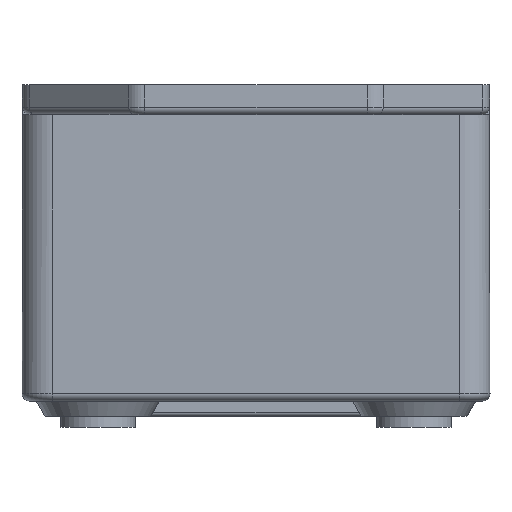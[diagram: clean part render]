
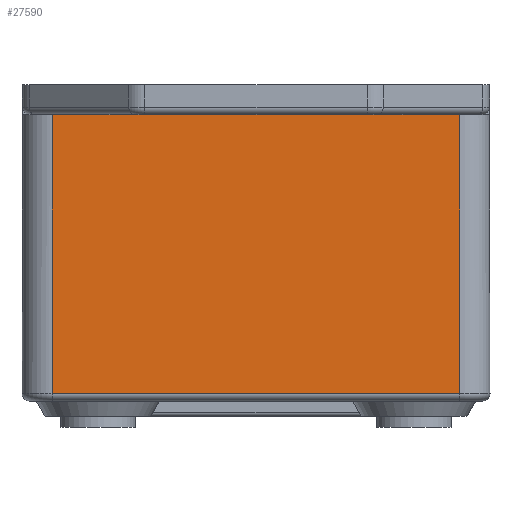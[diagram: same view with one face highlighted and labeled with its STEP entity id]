
A CAD part, front view. The second image highlights one B-rep face of the part: STEP entity #27590.
In plain terms, the highlighted planar face has unit normal (0, -1, 0.002).
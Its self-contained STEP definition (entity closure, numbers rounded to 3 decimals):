
#16660=CARTESIAN_POINT('',(27.,-48.,38.));
#16670=VERTEX_POINT('',#16660);
#16700=CARTESIAN_POINT('',(27.,-48.,38.));
#16710=DIRECTION('',(-1.,0.,0.));
#16720=VECTOR('',#16710,1.);
#16730=LINE('',#16700,#16720);
#16740=CARTESIAN_POINT('',(-27.,-48.,38.));
#16750=VERTEX_POINT('',#16740);
#16760=EDGE_CURVE('',#16670,#16750,#16730,.T.);
#26600=CARTESIAN_POINT('',(-27.065,-48.064,
1.001));
#26610=VERTEX_POINT('',#26600);
#27000=CARTESIAN_POINT('',(-27.,-48.,38.));
#27010=DIRECTION('',(-0.002,-0.002,
-1.));
#27020=VECTOR('',#27010,1.);
#27030=LINE('',#27000,#27020);
#27040=EDGE_CURVE('',#16750,#26610,#27030,.T.);
#27360=CARTESIAN_POINT('',(28.418,-47.998,
38.925));
#27370=DIRECTION('',(0.,-1.,0.002));
#27380=DIRECTION('',(0.,0.002,1.));
#27390=AXIS2_PLACEMENT_3D('',#27360,#27370,#27380);
#27400=PLANE('',#27390);
#27410=CARTESIAN_POINT('',(-27.065,-48.065,
1.));
#27420=DIRECTION('',(1.,0.,0.));
#27430=VECTOR('',#27420,1.);
#27440=LINE('',#27410,#27430);
#27450=CARTESIAN_POINT('',(27.065,-48.065,
1.001));
#27460=VERTEX_POINT('',#27450);
#27470=EDGE_CURVE('',#26610,#27460,#27440,.T.);
#27480=ORIENTED_EDGE('',*,*,#27470,.T.);
#27490=ORIENTED_EDGE('',*,*,#27040,.T.);
#27500=ORIENTED_EDGE('',*,*,#16760,.T.);
#27510=CARTESIAN_POINT('',(27.065,-48.065,
1.002));
#27520=DIRECTION('',(-0.002,0.002,
1.));
#27530=VECTOR('',#27520,1.);
#27540=LINE('',#27510,#27530);
#27550=EDGE_CURVE('',#27460,#16670,#27540,.T.);
#27560=ORIENTED_EDGE('',*,*,#27550,.T.);
#27570=EDGE_LOOP('',(#27560,#27500,#27490,#27480));
#27580=FACE_OUTER_BOUND('',#27570,.T.);
#27590=ADVANCED_FACE('',(#27580),#27400,.T.);
